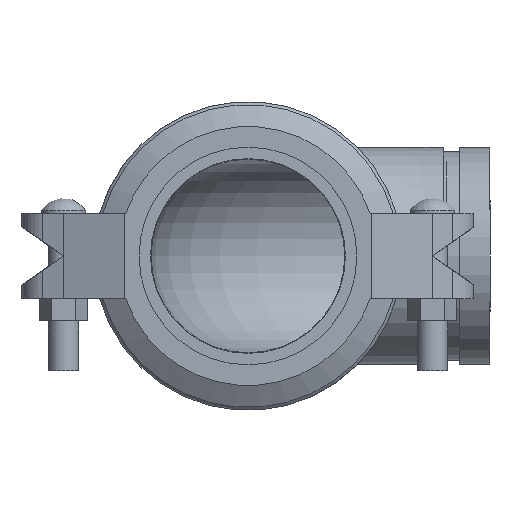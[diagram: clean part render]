
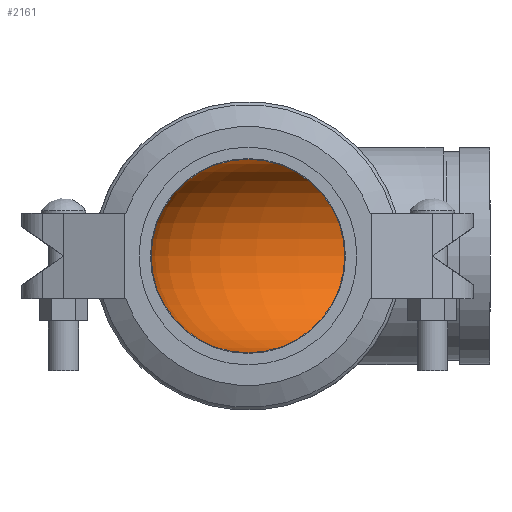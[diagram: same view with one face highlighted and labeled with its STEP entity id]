
A CAD part, left-side view. The second image highlights one B-rep face of the part: STEP entity #2161.
In plain terms, the highlighted toroidal (fillet/blend) face has major radius 103.988 mm and minor radius 51.13 mm.
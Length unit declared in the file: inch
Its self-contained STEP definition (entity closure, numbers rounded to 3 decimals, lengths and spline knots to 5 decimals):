
#62=TOROIDAL_SURFACE('',#2390,4.094,2.013);
#476=FACE_OUTER_BOUND('',#597,.T.);
#597=EDGE_LOOP('',(#1379,#1380,#1381,#1382,#1383,#1384));
#735=CIRCLE('',#2387,2.013);
#736=CIRCLE('',#2388,2.013);
#738=CIRCLE('',#2391,2.013);
#739=CIRCLE('',#2392,2.081);
#740=CIRCLE('',#2393,2.013);
#847=VERTEX_POINT('',#3576);
#848=VERTEX_POINT('',#3577);
#850=VERTEX_POINT('',#3584);
#851=VERTEX_POINT('',#3585);
#1055=EDGE_CURVE('',#847,#848,#735,.T.);
#1056=EDGE_CURVE('',#848,#847,#736,.T.);
#1059=EDGE_CURVE('',#850,#851,#738,.T.);
#1060=EDGE_CURVE('',#851,#848,#739,.T.);
#1061=EDGE_CURVE('',#851,#850,#740,.T.);
#1379=ORIENTED_EDGE('',*,*,#1059,.T.);
#1380=ORIENTED_EDGE('',*,*,#1060,.T.);
#1381=ORIENTED_EDGE('',*,*,#1055,.F.);
#1382=ORIENTED_EDGE('',*,*,#1056,.F.);
#1383=ORIENTED_EDGE('',*,*,#1060,.F.);
#1384=ORIENTED_EDGE('',*,*,#1061,.T.);
#2161=ADVANCED_FACE('',(#476),#62,.F.);
#2387=AXIS2_PLACEMENT_3D('',#3578,#2656,#2657);
#2388=AXIS2_PLACEMENT_3D('',#3579,#2658,#2659);
#2390=AXIS2_PLACEMENT_3D('',#3583,#2663,#2664);
#2391=AXIS2_PLACEMENT_3D('',#3586,#2665,#2666);
#2392=AXIS2_PLACEMENT_3D('',#3587,#2667,#2668);
#2393=AXIS2_PLACEMENT_3D('',#3588,#2669,#2670);
#2656=DIRECTION('center_axis',(0.,1.,0.));
#2657=DIRECTION('ref_axis',(1.,0.,0.));
#2658=DIRECTION('center_axis',(0.,1.,0.));
#2659=DIRECTION('ref_axis',(1.,0.,0.));
#2663=DIRECTION('center_axis',(0.,0.,1.));
#2664=DIRECTION('ref_axis',(1.,0.,0.));
#2665=DIRECTION('center_axis',(1.,0.,0.));
#2666=DIRECTION('ref_axis',(0.,-1.,0.));
#2667=DIRECTION('center_axis',(0.,0.,1.));
#2668=DIRECTION('ref_axis',(1.,0.,0.));
#2669=DIRECTION('center_axis',(1.,0.,0.));
#2670=DIRECTION('ref_axis',(0.,-1.,0.));
#3576=CARTESIAN_POINT('',(-2.013,-4.094,0.));
#3577=CARTESIAN_POINT('',(2.013,-4.094,0.));
#3578=CARTESIAN_POINT('Origin',(0.,-4.094,
0.));
#3579=CARTESIAN_POINT('Origin',(0.,-4.094,
0.));
#3583=CARTESIAN_POINT('Origin',(4.094,-4.094,0.));
#3584=CARTESIAN_POINT('',(4.094,2.013,0.));
#3585=CARTESIAN_POINT('',(4.094,-2.013,0.));
#3586=CARTESIAN_POINT('Origin',(4.094,0.,0.));
#3587=CARTESIAN_POINT('Origin',(4.094,-4.094,0.));
#3588=CARTESIAN_POINT('Origin',(4.094,0.,0.));
